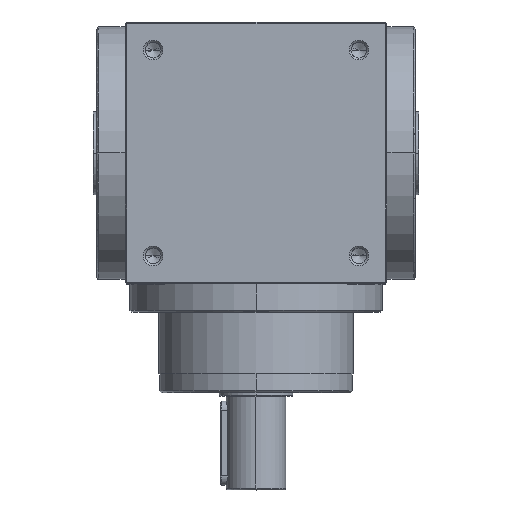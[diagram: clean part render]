
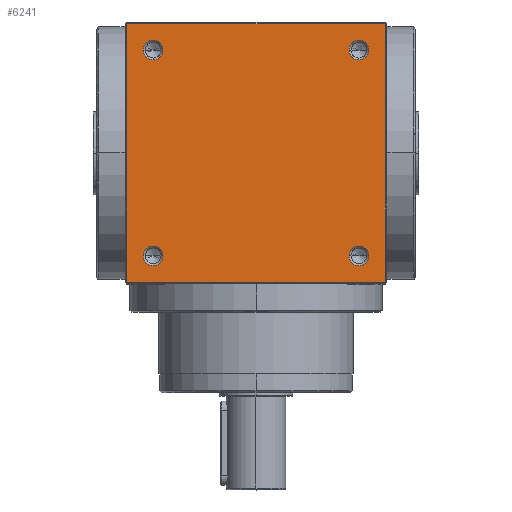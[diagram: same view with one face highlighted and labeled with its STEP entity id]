
A CAD part, top view. The second image highlights one B-rep face of the part: STEP entity #6241.
In plain terms, the highlighted planar face has unit normal (0, 0, 1).
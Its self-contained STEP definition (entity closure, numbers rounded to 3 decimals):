
#160 = CIRCLE ( 'NONE', #6977, 5.25 ) ;
#172 = EDGE_LOOP ( 'NONE', ( #5842, #2892 ) ) ;
#203 = FACE_BOUND ( 'NONE', #6032, .T. ) ;
#270 = PLANE ( 'NONE',  #1824 ) ;
#381 = DIRECTION ( 'NONE',  ( 1., 0., 0. ) ) ;
#382 = DIRECTION ( 'NONE',  ( 0., 0., 1. ) ) ;
#388 = CARTESIAN_POINT ( 'NONE',  ( -55., 55., 70. ) ) ;
#407 = AXIS2_PLACEMENT_3D ( 'NONE', #7312, #7310, #7287 ) ;
#535 = ORIENTED_EDGE ( 'NONE', *, *, #5627, .F. ) ;
#629 = VERTEX_POINT ( 'NONE', #4208 ) ;
#660 = VERTEX_POINT ( 'NONE', #4010 ) ;
#669 = EDGE_CURVE ( 'NONE', #4613, #7100, #1257, .T. ) ;
#922 = CARTESIAN_POINT ( 'NONE',  ( 49.75, -55., 70. ) ) ;
#973 = VERTEX_POINT ( 'NONE', #2498 ) ;
#1062 = CARTESIAN_POINT ( 'NONE',  ( 60.25, 55., 70. ) ) ;
#1072 = DIRECTION ( 'NONE',  ( 1., 0., 0. ) ) ;
#1075 = DIRECTION ( 'NONE',  ( 0., 0., 1. ) ) ;
#1082 = CARTESIAN_POINT ( 'NONE',  ( -55., 55., 70. ) ) ;
#1155 = CIRCLE ( 'NONE', #3346, 5.25 ) ;
#1257 = LINE ( 'NONE', #4062, #5870 ) ;
#1455 = EDGE_CURVE ( 'NONE', #2636, #2448, #4133, .T. ) ;
#1488 = DIRECTION ( 'NONE',  ( 1., 0., 0. ) ) ;
#1494 = DIRECTION ( 'NONE',  ( 0., 0., 1. ) ) ;
#1497 = CARTESIAN_POINT ( 'NONE',  ( -55., -55., 70. ) ) ;
#1523 = DIRECTION ( 'NONE',  ( 1., 0., 0. ) ) ;
#1528 = DIRECTION ( 'NONE',  ( 0., 0., 1. ) ) ;
#1538 = CARTESIAN_POINT ( 'NONE',  ( 55., -55., 70. ) ) ;
#1720 = EDGE_LOOP ( 'NONE', ( #5871, #5580, #7341, #3035 ) ) ;
#1794 = DIRECTION ( 'NONE',  ( 1., 0., 0. ) ) ;
#1798 = DIRECTION ( 'NONE',  ( 0., 0., 1. ) ) ;
#1803 = CARTESIAN_POINT ( 'NONE',  ( -55., -55., 70. ) ) ;
#1806 = AXIS2_PLACEMENT_3D ( 'NONE', #388, #382, #381 ) ;
#1824 = AXIS2_PLACEMENT_3D ( 'NONE', #2462, #4450, #5266 ) ;
#1957 = DIRECTION ( 'NONE',  ( 1., 0., 0. ) ) ;
#1971 = CARTESIAN_POINT ( 'NONE',  ( 0., 69., 70. ) ) ;
#2113 = FACE_BOUND ( 'NONE', #172, .T. ) ;
#2132 = ORIENTED_EDGE ( 'NONE', *, *, #3375, .F. ) ;
#2181 = FACE_BOUND ( 'NONE', #4364, .T. ) ;
#2448 = VERTEX_POINT ( 'NONE', #5241 ) ;
#2462 = CARTESIAN_POINT ( 'NONE',  ( 69., -69., 70. ) ) ;
#2464 = EDGE_CURVE ( 'NONE', #4613, #2632, #7416, .T. ) ;
#2475 = EDGE_LOOP ( 'NONE', ( #535, #5725 ) ) ;
#2491 = FACE_BOUND ( 'NONE', #2475, .T. ) ;
#2498 = CARTESIAN_POINT ( 'NONE',  ( -49.75, -55., 70. ) ) ;
#2502 = FACE_OUTER_BOUND ( 'NONE', #1720, .T. ) ;
#2632 = VERTEX_POINT ( 'NONE', #4553 ) ;
#2636 = VERTEX_POINT ( 'NONE', #4402 ) ;
#2844 = LINE ( 'NONE', #1971, #4076 ) ;
#2849 = ORIENTED_EDGE ( 'NONE', *, *, #3269, .F. ) ;
#2892 = ORIENTED_EDGE ( 'NONE', *, *, #6954, .F. ) ;
#2960 = EDGE_CURVE ( 'NONE', #629, #7100, #7247, .T. ) ;
#3035 = ORIENTED_EDGE ( 'NONE', *, *, #2464, .F. ) ;
#3070 = CIRCLE ( 'NONE', #6802, 5.25 ) ;
#3235 = EDGE_CURVE ( 'NONE', #2632, #629, #2844, .T. ) ;
#3269 = EDGE_CURVE ( 'NONE', #973, #660, #3778, .T. ) ;
#3305 = CARTESIAN_POINT ( 'NONE',  ( 69., 0., 70. ) ) ;
#3315 = DIRECTION ( 'NONE',  ( 0., -1., 0. ) ) ;
#3346 = AXIS2_PLACEMENT_3D ( 'NONE', #7382, #7376, #7370 ) ;
#3363 = EDGE_CURVE ( 'NONE', #6521, #3539, #160, .T. ) ;
#3375 = EDGE_CURVE ( 'NONE', #660, #973, #5582, .T. ) ;
#3493 = VERTEX_POINT ( 'NONE', #1062 ) ;
#3539 = VERTEX_POINT ( 'NONE', #922 ) ;
#3778 = CIRCLE ( 'NONE', #7159, 5.25 ) ;
#3896 = VECTOR ( 'NONE', #5201, 1000. ) ;
#3913 = CARTESIAN_POINT ( 'NONE',  ( 69., -69., 70. ) ) ;
#3986 = DIRECTION ( 'NONE',  ( 1., 0., 0. ) ) ;
#4010 = CARTESIAN_POINT ( 'NONE',  ( -60.25, -55., 70. ) ) ;
#4062 = CARTESIAN_POINT ( 'NONE',  ( 0., -69., 70. ) ) ;
#4076 = VECTOR ( 'NONE', #1957, 1000. ) ;
#4133 = CIRCLE ( 'NONE', #1806, 5.25 ) ;
#4208 = CARTESIAN_POINT ( 'NONE',  ( 69., 69., 70. ) ) ;
#4240 = EDGE_CURVE ( 'NONE', #3493, #6401, #1155, .T. ) ;
#4364 = EDGE_LOOP ( 'NONE', ( #2849, #2132 ) ) ;
#4380 = DIRECTION ( 'NONE',  ( 1., 0., 0. ) ) ;
#4398 = DIRECTION ( 'NONE',  ( 0., 0., 1. ) ) ;
#4402 = CARTESIAN_POINT ( 'NONE',  ( -60.25, 55., 70. ) ) ;
#4420 = CARTESIAN_POINT ( 'NONE',  ( 55., -55., 70. ) ) ;
#4450 = DIRECTION ( 'NONE',  ( 0., 0., -1. ) ) ;
#4553 = CARTESIAN_POINT ( 'NONE',  ( -69., 69., 70. ) ) ;
#4613 = VERTEX_POINT ( 'NONE', #5808 ) ;
#4632 = VECTOR ( 'NONE', #3315, 1000. ) ;
#4944 = AXIS2_PLACEMENT_3D ( 'NONE', #4420, #4398, #4380 ) ;
#5031 = CIRCLE ( 'NONE', #4944, 5.25 ) ;
#5102 = ORIENTED_EDGE ( 'NONE', *, *, #6420, .F. ) ;
#5199 = CARTESIAN_POINT ( 'NONE',  ( -69., 0., 70. ) ) ;
#5201 = DIRECTION ( 'NONE',  ( 0., 1., 0. ) ) ;
#5241 = CARTESIAN_POINT ( 'NONE',  ( -49.75, 55., 70. ) ) ;
#5266 = DIRECTION ( 'NONE',  ( -1., 0., 0. ) ) ;
#5580 = ORIENTED_EDGE ( 'NONE', *, *, #2960, .F. ) ;
#5582 = CIRCLE ( 'NONE', #6949, 5.25 ) ;
#5627 = EDGE_CURVE ( 'NONE', #2448, #2636, #3070, .T. ) ;
#5628 = ORIENTED_EDGE ( 'NONE', *, *, #4240, .F. ) ;
#5725 = ORIENTED_EDGE ( 'NONE', *, *, #1455, .F. ) ;
#5808 = CARTESIAN_POINT ( 'NONE',  ( -69., -69., 70. ) ) ;
#5842 = ORIENTED_EDGE ( 'NONE', *, *, #3363, .F. ) ;
#5870 = VECTOR ( 'NONE', #3986, 1000. ) ;
#5871 = ORIENTED_EDGE ( 'NONE', *, *, #669, .T. ) ;
#6032 = EDGE_LOOP ( 'NONE', ( #5628, #5102 ) ) ;
#6241 = ADVANCED_FACE ( 'NONE', ( #2491, #203, #2181, #2113, #2502 ), #270, .F. ) ;
#6401 = VERTEX_POINT ( 'NONE', #7387 ) ;
#6415 = CIRCLE ( 'NONE', #407, 5.25 ) ;
#6420 = EDGE_CURVE ( 'NONE', #6401, #3493, #6415, .T. ) ;
#6521 = VERTEX_POINT ( 'NONE', #7054 ) ;
#6802 = AXIS2_PLACEMENT_3D ( 'NONE', #1082, #1075, #1072 ) ;
#6949 = AXIS2_PLACEMENT_3D ( 'NONE', #1497, #1494, #1488 ) ;
#6954 = EDGE_CURVE ( 'NONE', #3539, #6521, #5031, .T. ) ;
#6977 = AXIS2_PLACEMENT_3D ( 'NONE', #1538, #1528, #1523 ) ;
#7054 = CARTESIAN_POINT ( 'NONE',  ( 60.25, -55., 70. ) ) ;
#7100 = VERTEX_POINT ( 'NONE', #3913 ) ;
#7159 = AXIS2_PLACEMENT_3D ( 'NONE', #1803, #1798, #1794 ) ;
#7247 = LINE ( 'NONE', #3305, #4632 ) ;
#7287 = DIRECTION ( 'NONE',  ( 1., 0., 0. ) ) ;
#7310 = DIRECTION ( 'NONE',  ( 0., 0., 1. ) ) ;
#7312 = CARTESIAN_POINT ( 'NONE',  ( 55., 55., 70. ) ) ;
#7341 = ORIENTED_EDGE ( 'NONE', *, *, #3235, .F. ) ;
#7370 = DIRECTION ( 'NONE',  ( 1., 0., 0. ) ) ;
#7376 = DIRECTION ( 'NONE',  ( 0., 0., 1. ) ) ;
#7382 = CARTESIAN_POINT ( 'NONE',  ( 55., 55., 70. ) ) ;
#7387 = CARTESIAN_POINT ( 'NONE',  ( 49.75, 55., 70. ) ) ;
#7416 = LINE ( 'NONE', #5199, #3896 ) ;
